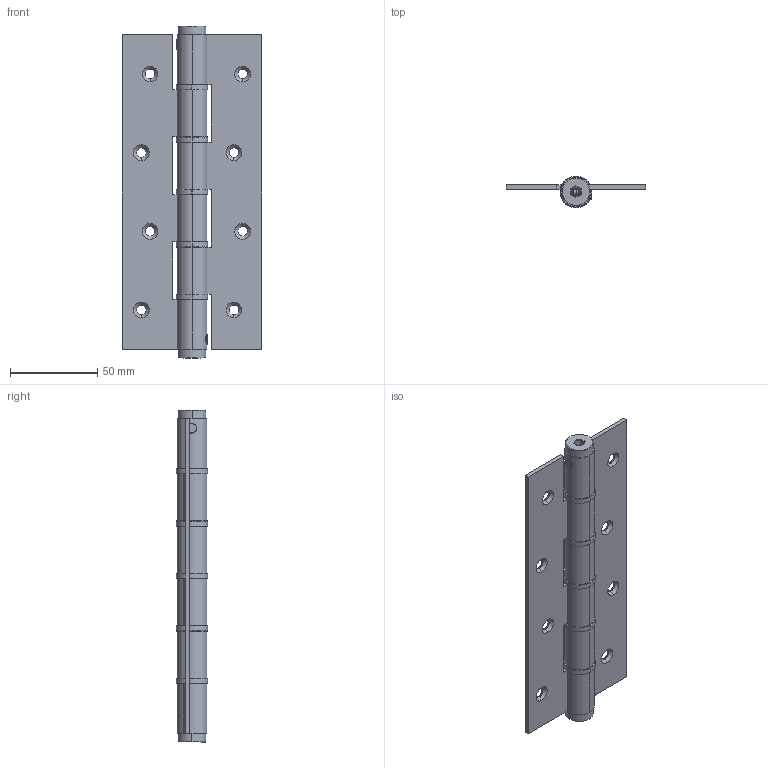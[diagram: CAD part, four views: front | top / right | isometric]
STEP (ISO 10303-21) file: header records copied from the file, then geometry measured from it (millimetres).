
FILE_DESCRIPTION((''),'2;1');
FILE_NAME('158.5814.05-.08.stp','2015-02-02T13:33:29',(''),(''),'Mechanical Desktop 2006','Mechanical Desktop 2006',', , ');
FILE_SCHEMA(('CONFIG_CONTROL_DESIGN'));
Length unit declared in the file: millimetre
Products named in the file (7): 5814.05.30; 057.028.0.0 55719 TAP FRONTISSA -FORADAT-(1); 057.020.0.2 PASSADOR FRONTISSES 3 X 9.5(1); TEIL4; TEIL5; TEIL3; ~TEIL5
Assembly tree (13 placements, depth 2):
  5814.05.30
    057.028.0.0 55719 TAP FRONTISSA -FORADAT-(1)  x2
    057.020.0.2 PASSADOR FRONTISSES 3 X 9.5(1)  x2
    TEIL4  x6
    TEIL5
    TEIL3
    ~TEIL5
Bounding box: 80 x 18 x 190 mm (x, y, z)
Volume: 57588 mm3; surface area: 57268.7 mm2
Topology: 11 solids, 15 shells, 382 faces, 968 edges, 594 vertices
Faces by surface type: cylinder 196, plane 102, cone 68, sphere 8, torus 8
Entity records: 7769 total; most frequent: CARTESIAN_POINT 1701, DIRECTION 1316, ORIENTED_EDGE 1196, EDGE_CURVE 600, AXIS2_PLACEMENT_3D 514, VERTEX_POINT 377, VECTOR 288, LINE 288
